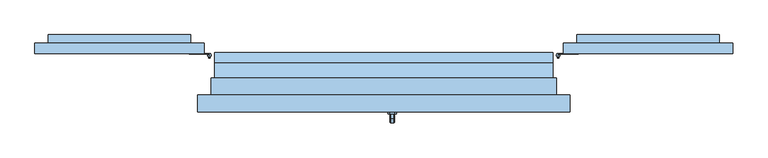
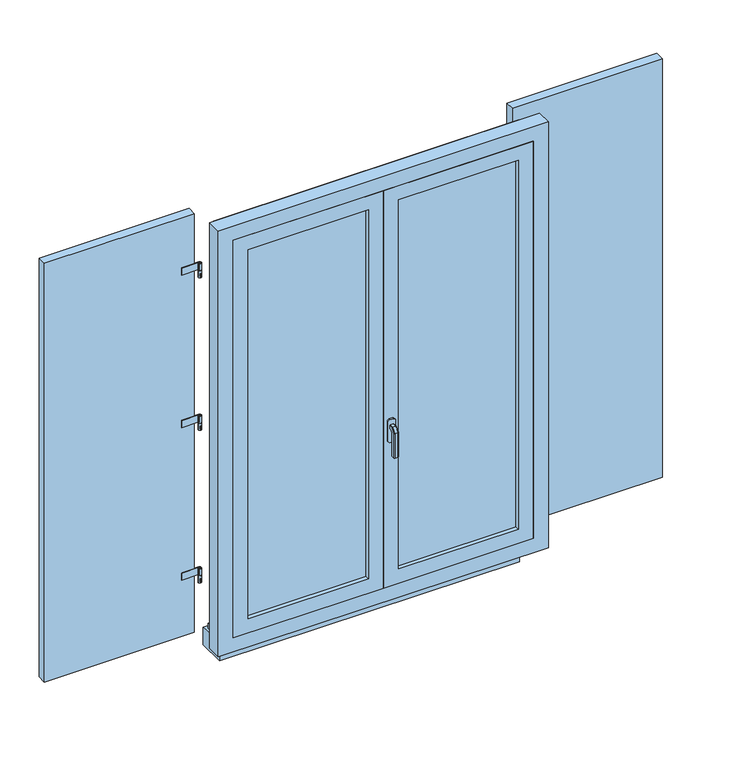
"""IFC4 building model written with IfcOpenShell, lengths in millimetres: window geometry, 2 Vantaux droits - Volets et petits bois : 1m x 1.45m - Appui Béton."""

from ifc_helpers import new_model, si_unit, point, frame, frame_2d, origin, place, context, project, spatial, polyline, circle_curve, trimmed, segment, composite_curve, outline, extrude, faceted_brep, source, transform, mapped, element, save
from ifc_brep_helpers import plane_surface, cylinder_surface, advanced_brep


def window_4f2076fb(model_context):
    return source(origin(), model_context, "Body", "SolidModel", [
        extrude(outline(polyline([(-1030.0, 93.0), (-1030.0, 123.0), (-530.0, 123.0), (-530.0, 93.0), (-1030.0, 93.0)])), frame((0.0, 0.0, 775.0), z_axis=(0.0, 0.0, 1.0), x_axis=(1.0, 0.0, 0.0)), (0.0, 0.0, 1.0), 1475.0),
        advanced_brep(
        [(-510.0, 88.0, 975.0), (-520.0, 88.0, 975.0), (-510.0, 88.0, 950.0), (-520.0, 88.0, 950.0), (-517.0, 83.4174243, 955.0), (-517.0, 83.4174243, 965.0), (-513.0, 83.4174243, 965.0), (-513.0, 83.4174243, 955.0), (-513.0, 80.0, 965.0), (-517.0, 80.0, 965.0), (-517.0, 80.0, 955.0), (-513.0, 80.0, 955.0)],
        [
            (0, 1, circle_curve(frame((-515.0, 88.0, 975.0), z_axis=(0.0, 0.0, 1.0), x_axis=(-1.0, 0.0, 0.0)), 5.0)),
            (1, 0, circle_curve(frame((-515.0, 88.0, 975.0), z_axis=(0.0, 0.0, 1.0), x_axis=(-1.0, 0.0, 0.0)), 5.0)),
            (2, 3, circle_curve(frame((-515.0, 88.0, 950.0), z_axis=(0.0, 0.0, -1.0), x_axis=(-1.0, 0.0, 0.0)), 5.0)),
            (3, 2, circle_curve(frame((-515.0, 88.0, 950.0), z_axis=(0.0, 0.0, -1.0), x_axis=(-1.0, 0.0, 0.0)), 5.0)),
            (1, 3),
            (2, 0),
            (4, 5),
            (5, 6, circle_curve(frame((-515.0, 88.0, 965.0), z_axis=(0.0, 0.0, 1.0), x_axis=(-1.0, 0.0, 0.0)), 5.0)),
            (6, 7),
            (7, 4, circle_curve(frame((-515.0, 88.0, 955.0), z_axis=(0.0, 0.0, -1.0), x_axis=(-1.0, 0.0, 0.0)), 5.0)),
            (8, 6),
            (5, 9),
            (9, 8),
            (10, 4),
            (7, 11),
            (11, 10),
            (10, 9),
            (8, 11),
        ],
        [
            plane_surface(frame((-520.0, 88.0, 975.0), z_axis=(0.0, 0.0, 1.0), x_axis=(0.0, 1.0, 0.0))),
            plane_surface(frame((-520.0, 88.0, 950.0), z_axis=(0.0, 0.0, -1.0), x_axis=(0.0, -1.0, 0.0))),
            cylinder_surface(frame((-515.0, 88.0, 950.0), z_axis=(0.0, 0.0, 1.0), x_axis=(-1.0, 0.0, 0.0)), 5.0),
            plane_surface(frame((-517.0, 80.0, 965.0), z_axis=(0.0, 0.0, 1.0), x_axis=(0.0, 1.0, 0.0))),
            plane_surface(frame((-517.0, 80.0, 955.0), z_axis=(0.0, 0.0, -1.0), x_axis=(0.0, -1.0, 0.0))),
            plane_surface(frame((-517.0, 80.0, 965.0), z_axis=(-1.0, 0.0, 0.0), x_axis=(0.0, 0.0, -1.0))),
            plane_surface(frame((-513.0, 85.0, 965.0), z_axis=(1.0, 0.0, 0.0), x_axis=(0.0, 0.0, -1.0))),
            plane_surface(frame((-513.0, 80.0, 965.0), z_axis=(0.0, -1.0, 0.0), x_axis=(0.0, 0.0, -1.0))),
        ],
        [
            (0, [[1, 2]]),
            (1, [[3, 4]]),
            (2, [[5, -3, 6, -2], [7, 8, 9, 10]]),
            (2, [[-6, -4, -5, -1]]),
            (3, [[11, -8, 12, 13]]),
            (4, [[14, -10, 15, 16]]),
            (5, [[-12, -7, -14, 17]]),
            (6, [[-15, -9, -11, 18]]),
            (7, [[-17, -16, -18, -13]]),
        ],
    ),
        extrude(outline(composite_curve([segment(trimmed(circle_curve(frame_2d((-515.0, 88.0)), 5.0), [point((-515.0, 93.0))], [point((-520.0, 88.0))], False, "CARTESIAN"), True, "CONTINUOUS"), segment(polyline([(-520.0, 88.0), (-517.5, 88.0)]), True, "CONTINUOUS"), segment(trimmed(circle_curve(frame_2d((-515.0, 88.0)), 2.5), [point((-517.5, 88.0))], [point((-515.0, 90.5))], True, "CARTESIAN"), True, "CONTINUOUS"), segment(polyline([(-515.0, 90.5), (-574.3092325, 90.5), (-574.3092325, 93.0), (-515.0, 93.0)]), True, "CONTINUOUS")], self_intersect=False)), frame((0.0, 0.0, 975.0), z_axis=(0.0, 0.0, 1.0), x_axis=(1.0, 0.0, 0.0)), (0.0, 0.0, 1.0), 25.0),
        extrude(outline(composite_curve([segment(trimmed(circle_curve(frame_2d((-515.0, 88.0)), 2.5), [point((-512.5, 88.0))], [point((-517.5, 88.0))], False, "CARTESIAN"), True, "CONTINUOUS"), segment(trimmed(circle_curve(frame_2d((-515.0, 88.0)), 2.5), [point((-517.5, 88.0))], [point((-512.5, 88.0))], False, "CARTESIAN"), True, "CONTINUOUS")], self_intersect=False)), frame((0.0, 0.0, 975.0), z_axis=(0.0, 0.0, 1.0), x_axis=(1.0, 0.0, 0.0)), (0.0, 0.0, 1.0), 25.0),
        advanced_brep(
        [(-510.0, 88.0, 2050.0), (-520.0, 88.0, 2050.0), (-510.0, 88.0, 2025.0), (-520.0, 88.0, 2025.0), (-513.0, 83.4174243, 2040.0), (-513.0, 83.4174243, 2030.0), (-517.0, 83.4174243, 2030.0), (-517.0, 83.4174243, 2040.0), (-513.0, 80.0, 2040.0), (-517.0, 80.0, 2040.0), (-513.0, 80.0, 2030.0), (-517.0, 80.0, 2030.0)],
        [
            (0, 1, circle_curve(frame((-515.0, 88.0, 2050.0), z_axis=(0.0, 0.0, 1.0), x_axis=(-1.0, 0.0, 0.0)), 5.0)),
            (1, 0, circle_curve(frame((-515.0, 88.0, 2050.0), z_axis=(0.0, 0.0, 1.0), x_axis=(-1.0, 0.0, 0.0)), 5.0)),
            (2, 3, circle_curve(frame((-515.0, 88.0, 2025.0), z_axis=(0.0, 0.0, -1.0), x_axis=(-1.0, 0.0, 0.0)), 5.0)),
            (3, 2, circle_curve(frame((-515.0, 88.0, 2025.0), z_axis=(0.0, 0.0, -1.0), x_axis=(-1.0, 0.0, 0.0)), 5.0)),
            (1, 3),
            (2, 0),
            (4, 5),
            (5, 6, circle_curve(frame((-515.0, 88.0, 2030.0), z_axis=(0.0, 0.0, -1.0), x_axis=(-1.0, 0.0, 0.0)), 5.0)),
            (6, 7),
            (7, 4, circle_curve(frame((-515.0, 88.0, 2040.0), z_axis=(0.0, 0.0, 1.0), x_axis=(-1.0, 0.0, 0.0)), 5.0)),
            (8, 4),
            (7, 9),
            (9, 8),
            (10, 11),
            (11, 6),
            (5, 10),
            (9, 11),
            (10, 8),
        ],
        [
            plane_surface(frame((-520.0, 88.0, 2050.0), z_axis=(0.0, 0.0, 1.0), x_axis=(0.0, 1.0, 0.0))),
            plane_surface(frame((-520.0, 88.0, 2025.0), z_axis=(0.0, 0.0, -1.0), x_axis=(0.0, -1.0, 0.0))),
            cylinder_surface(frame((-515.0, 88.0, 2025.0), z_axis=(0.0, 0.0, 1.0), x_axis=(-1.0, 0.0, 0.0)), 5.0),
            plane_surface(frame((-513.0, 80.0, 2040.0), z_axis=(0.0, 0.0, 1.0), x_axis=(-1.0, 0.0, 0.0))),
            plane_surface(frame((-513.0, 80.0, 2030.0), z_axis=(0.0, 0.0, -1.0), x_axis=(1.0, 0.0, 0.0))),
            plane_surface(frame((-513.0, 80.0, 2040.0), z_axis=(0.0, -1.0, 0.0), x_axis=(0.0, 0.0, -1.0))),
            plane_surface(frame((-517.0, 80.0, 2040.0), z_axis=(-1.0, 0.0, 0.0), x_axis=(0.0, 0.0, -1.0))),
            plane_surface(frame((-513.0, 83.4174243, 2040.0), z_axis=(1.0, 0.0, 0.0), x_axis=(0.0, 0.0, -1.0))),
        ],
        [
            (0, [[1, 2]]),
            (1, [[3, 4]]),
            (2, [[5, -3, 6, -2], [7, 8, 9, 10]]),
            (2, [[-6, -4, -5, -1]]),
            (3, [[11, -10, 12, 13]]),
            (4, [[14, 15, -8, 16]]),
            (5, [[17, -14, 18, -13]]),
            (6, [[-9, -15, -17, -12]]),
            (7, [[-18, -16, -7, -11]]),
        ],
    ),
        extrude(outline(polyline([(-513.0, 80.0), (-517.0, 80.0), (-517.0, 83.4174243), (-513.0, 83.4174243), (-513.0, 80.0)])), frame((0.0, 0.0, 1492.5), z_axis=(0.0, 0.0, 1.0), x_axis=(1.0, 0.0, 0.0)), (0.0, 0.0, 1.0), 10.0),
        extrude(outline(composite_curve([segment(trimmed(circle_curve(frame_2d((-515.0, 88.0)), 5.0), [point((-515.0, 93.0))], [point((-520.0, 88.0))], False, "CARTESIAN"), True, "CONTINUOUS"), segment(polyline([(-520.0, 88.0), (-517.5, 88.0)]), True, "CONTINUOUS"), segment(trimmed(circle_curve(frame_2d((-515.0, 88.0)), 2.5), [point((-517.5, 88.0))], [point((-512.5, 88.0))], True, "CARTESIAN"), True, "CONTINUOUS"), segment(trimmed(circle_curve(frame_2d((-515.0, 88.0)), 2.5), [point((-512.5, 88.0))], [point((-515.0, 90.5))], True, "CARTESIAN"), True, "CONTINUOUS"), segment(polyline([(-515.0, 90.5), (-574.3092325, 90.5), (-574.3092325, 93.0), (-515.0, 93.0)]), True, "CONTINUOUS")], self_intersect=False)), frame((0.0, 0.0, 1512.5), z_axis=(0.0, 0.0, 1.0), x_axis=(1.0, 0.0, 0.0)), (0.0, 0.0, 1.0), 25.0),
        extrude(outline(composite_curve([segment(trimmed(circle_curve(frame_2d((-515.0, 88.0)), 2.5), [point((-512.5, 88.0))], [point((-517.5, 88.0))], False, "CARTESIAN"), True, "CONTINUOUS"), segment(trimmed(circle_curve(frame_2d((-515.0, 88.0)), 2.5), [point((-517.5, 88.0))], [point((-512.5, 88.0))], False, "CARTESIAN"), True, "CONTINUOUS")], self_intersect=False)), frame((0.0, 0.0, 1512.5), z_axis=(0.0, 0.0, 1.0), x_axis=(1.0, 0.0, 0.0)), (0.0, 0.0, 1.0), 25.0),
        extrude(outline(composite_curve([segment(trimmed(circle_curve(frame_2d((-515.0, 88.0)), 5.0), [point((-510.0, 88.0))], [point((-520.0, 88.0))], False, "CARTESIAN"), True, "CONTINUOUS"), segment(trimmed(circle_curve(frame_2d((-515.0, 88.0)), 5.0), [point((-520.0, 88.0))], [point((-510.0, 88.0))], False, "CARTESIAN"), True, "CONTINUOUS")], self_intersect=False)), frame((0.0, 0.0, 1487.5), z_axis=(0.0, 0.0, 1.0), x_axis=(1.0, 0.0, 0.0)), (0.0, 0.0, 1.0), 25.0),
        extrude(outline(composite_curve([segment(trimmed(circle_curve(frame_2d((-515.0, 88.0)), 5.0), [point((-515.0, 93.0))], [point((-520.0, 88.0))], False, "CARTESIAN"), True, "CONTINUOUS"), segment(polyline([(-520.0, 88.0), (-517.5, 88.0)]), True, "CONTINUOUS"), segment(trimmed(circle_curve(frame_2d((-515.0, 88.0)), 2.5), [point((-517.5, 88.0))], [point((-515.0, 90.5))], True, "CARTESIAN"), True, "CONTINUOUS"), segment(polyline([(-515.0, 90.5), (-574.3092325, 90.5), (-574.3092325, 93.0), (-515.0, 93.0)]), True, "CONTINUOUS")], self_intersect=False)), frame((0.0, 0.0, 2050.0), z_axis=(0.0, 0.0, 1.0), x_axis=(1.0, 0.0, 0.0)), (0.0, 0.0, 1.0), 25.0),
        extrude(outline(composite_curve([segment(trimmed(circle_curve(frame_2d((-515.0, 88.0)), 2.5), [point((-512.5, 88.0))], [point((-517.5, 88.0))], False, "CARTESIAN"), True, "CONTINUOUS"), segment(trimmed(circle_curve(frame_2d((-515.0, 88.0)), 2.5), [point((-517.5, 88.0))], [point((-512.5, 88.0))], False, "CARTESIAN"), True, "CONTINUOUS")], self_intersect=False)), frame((0.0, 0.0, 2050.0), z_axis=(0.0, 0.0, 1.0), x_axis=(1.0, 0.0, 0.0)), (0.0, 0.0, 1.0), 25.0),
        extrude(outline(polyline([(2010.0, -990.0), (1015.0, -654.4279507), (1015.0, -570.0007252), (2010.0, -905.5727745), (2010.0, -990.0)])), frame((0.0, 123.0, 0.0), z_axis=(0.0, 1.0, 0.0), x_axis=(0.0, 0.0, 1.0)), (0.0, 0.0, 1.0), 25.0),
        extrude(outline(polyline([(-570.0, 148.0), (-570.0, 123.0), (-990.0, 123.0), (-990.0, 148.0), (-570.0, 148.0)])), frame((0.0, 0.0, 2010.0), z_axis=(0.0, 0.0, 1.0), x_axis=(1.0, 0.0, 0.0)), (0.0, 0.0, 1.0), 80.0),
        extrude(outline(polyline([(-570.0, 148.0), (-570.0, 123.0), (-990.0, 123.0), (-990.0, 148.0), (-570.0, 148.0)])), frame((0.0, 0.0, 935.0), z_axis=(0.0, 0.0, 1.0), x_axis=(1.0, 0.0, 0.0)), (0.0, 0.0, 1.0), 80.0),
        extrude(outline(polyline([(1030.0, 93.0), (530.0, 93.0), (530.0, 123.0), (1030.0, 123.0), (1030.0, 93.0)])), frame((0.0, 0.0, 775.0), z_axis=(0.0, 0.0, 1.0), x_axis=(1.0, 0.0, 0.0)), (0.0, 0.0, 1.0), 1475.0),
        advanced_brep(
        [(510.0, 88.0, 975.0), (520.0, 88.0, 975.0), (510.0, 88.0, 950.0), (520.0, 88.0, 950.0), (517.0, 83.4174243, 955.0), (513.0, 83.4174243, 955.0), (513.0, 83.4174243, 965.0), (517.0, 83.4174243, 965.0), (513.0, 80.0, 965.0), (517.0, 80.0, 965.0), (517.0, 80.0, 955.0), (513.0, 80.0, 955.0)],
        [
            (0, 1, circle_curve(frame((515.0, 88.0, 975.0), z_axis=(0.0, 0.0, 1.0), x_axis=(1.0, 0.0, 0.0)), 5.0)),
            (1, 0, circle_curve(frame((515.0, 88.0, 975.0), z_axis=(0.0, 0.0, 1.0), x_axis=(1.0, 0.0, 0.0)), 5.0)),
            (2, 3, circle_curve(frame((515.0, 88.0, 950.0), z_axis=(0.0, 0.0, -1.0), x_axis=(1.0, 0.0, 0.0)), 5.0)),
            (3, 2, circle_curve(frame((515.0, 88.0, 950.0), z_axis=(0.0, 0.0, -1.0), x_axis=(1.0, 0.0, 0.0)), 5.0)),
            (0, 2),
            (3, 1),
            (4, 5, circle_curve(frame((515.0, 88.0, 955.0), z_axis=(0.0, 0.0, -1.0), x_axis=(1.0, 0.0, 0.0)), 5.0)),
            (5, 6),
            (6, 7, circle_curve(frame((515.0, 88.0, 965.0), z_axis=(0.0, 0.0, 1.0), x_axis=(1.0, 0.0, 0.0)), 5.0)),
            (7, 4),
            (8, 9),
            (9, 7),
            (6, 8),
            (10, 11),
            (11, 5),
            (4, 10),
            (9, 10),
            (11, 8),
        ],
        [
            plane_surface(frame((520.0, 88.0, 975.0), z_axis=(0.0, 0.0, 1.0), x_axis=(0.0, 1.0, 0.0))),
            plane_surface(frame((520.0, 88.0, 950.0), z_axis=(0.0, 0.0, -1.0), x_axis=(0.0, -1.0, 0.0))),
            cylinder_surface(frame((515.0, 88.0, 950.0), z_axis=(0.0, 0.0, 1.0), x_axis=(1.0, 0.0, 0.0)), 5.0),
            plane_surface(frame((517.0, 80.0, 965.0), z_axis=(0.0, 0.0, 1.0), x_axis=(0.0, 1.0, 0.0))),
            plane_surface(frame((517.0, 80.0, 955.0), z_axis=(0.0, 0.0, -1.0), x_axis=(0.0, -1.0, 0.0))),
            plane_surface(frame((517.0, 80.0, 965.0), z_axis=(1.0, 0.0, 0.0), x_axis=(0.0, 0.0, -1.0))),
            plane_surface(frame((513.0, 85.0, 965.0), z_axis=(-1.0, 0.0, 0.0), x_axis=(0.0, 0.0, -1.0))),
            plane_surface(frame((513.0, 80.0, 965.0), z_axis=(0.0, -1.0, 0.0), x_axis=(0.0, 0.0, -1.0))),
        ],
        [
            (0, [[1, 2]]),
            (1, [[3, 4]]),
            (2, [[-1, 5, -4, 6], [7, 8, 9, 10]]),
            (2, [[-2, -6, -3, -5]]),
            (3, [[11, 12, -9, 13]]),
            (4, [[14, 15, -7, 16]]),
            (5, [[17, -16, -10, -12]]),
            (6, [[18, -13, -8, -15]]),
            (7, [[-11, -18, -14, -17]]),
        ],
    ),
        extrude(outline(composite_curve([segment(polyline([(515.0, 93.0), (574.3092325, 93.0), (574.3092325, 90.5), (515.0, 90.5)]), True, "CONTINUOUS"), segment(trimmed(circle_curve(frame_2d((515.0, 88.0)), 2.5), [point((515.0, 90.5))], [point((517.5, 88.0))], True, "CARTESIAN"), True, "CONTINUOUS"), segment(polyline([(517.5, 88.0), (520.0, 88.0)]), True, "CONTINUOUS"), segment(trimmed(circle_curve(frame_2d((515.0, 88.0)), 5.0), [point((520.0, 88.0))], [point((515.0, 93.0))], False, "CARTESIAN"), True, "CONTINUOUS")], self_intersect=False)), frame((0.0, 0.0, 975.0), z_axis=(0.0, 0.0, 1.0), x_axis=(1.0, 0.0, 0.0)), (0.0, 0.0, 1.0), 25.0),
        extrude(outline(composite_curve([segment(trimmed(circle_curve(frame_2d((515.0, 88.0)), 2.5), [point((512.5, 88.0))], [point((517.5, 88.0))], False, "CARTESIAN"), True, "CONTINUOUS"), segment(trimmed(circle_curve(frame_2d((515.0, 88.0)), 2.5), [point((517.5, 88.0))], [point((512.5, 88.0))], False, "CARTESIAN"), True, "CONTINUOUS")], self_intersect=False)), frame((0.0, 0.0, 975.0), z_axis=(0.0, 0.0, 1.0), x_axis=(1.0, 0.0, 0.0)), (0.0, 0.0, 1.0), 25.0),
        advanced_brep(
        [(510.0, 88.0, 2050.0), (520.0, 88.0, 2050.0), (510.0, 88.0, 2025.0), (520.0, 88.0, 2025.0), (513.0, 83.4174243, 2040.0), (517.0, 83.4174243, 2040.0), (517.0, 83.4174243, 2030.0), (513.0, 83.4174243, 2030.0), (513.0, 80.0, 2040.0), (517.0, 80.0, 2040.0), (513.0, 80.0, 2030.0), (517.0, 80.0, 2030.0)],
        [
            (0, 1, circle_curve(frame((515.0, 88.0, 2050.0), z_axis=(0.0, 0.0, 1.0), x_axis=(1.0, 0.0, 0.0)), 5.0)),
            (1, 0, circle_curve(frame((515.0, 88.0, 2050.0), z_axis=(0.0, 0.0, 1.0), x_axis=(1.0, 0.0, 0.0)), 5.0)),
            (2, 3, circle_curve(frame((515.0, 88.0, 2025.0), z_axis=(0.0, 0.0, -1.0), x_axis=(1.0, 0.0, 0.0)), 5.0)),
            (3, 2, circle_curve(frame((515.0, 88.0, 2025.0), z_axis=(0.0, 0.0, -1.0), x_axis=(1.0, 0.0, 0.0)), 5.0)),
            (0, 2),
            (3, 1),
            (4, 5, circle_curve(frame((515.0, 88.0, 2040.0), z_axis=(0.0, 0.0, 1.0), x_axis=(1.0, 0.0, 0.0)), 5.0)),
            (5, 6),
            (6, 7, circle_curve(frame((515.0, 88.0, 2030.0), z_axis=(0.0, 0.0, -1.0), x_axis=(1.0, 0.0, 0.0)), 5.0)),
            (7, 4),
            (8, 9),
            (9, 5),
            (4, 8),
            (10, 7),
            (6, 11),
            (11, 10),
            (8, 10),
            (11, 9),
        ],
        [
            plane_surface(frame((520.0, 88.0, 2050.0), z_axis=(0.0, 0.0, 1.0), x_axis=(0.0, 1.0, 0.0))),
            plane_surface(frame((520.0, 88.0, 2025.0), z_axis=(0.0, 0.0, -1.0), x_axis=(0.0, -1.0, 0.0))),
            cylinder_surface(frame((515.0, 88.0, 2025.0), z_axis=(0.0, 0.0, 1.0), x_axis=(1.0, 0.0, 0.0)), 5.0),
            plane_surface(frame((513.0, 80.0, 2040.0), z_axis=(0.0, 0.0, 1.0), x_axis=(1.0, 0.0, 0.0))),
            plane_surface(frame((513.0, 80.0, 2030.0), z_axis=(0.0, 0.0, -1.0), x_axis=(-1.0, 0.0, 0.0))),
            plane_surface(frame((513.0, 80.0, 2040.0), z_axis=(0.0, -1.0, 0.0), x_axis=(0.0, 0.0, -1.0))),
            plane_surface(frame((517.0, 80.0, 2040.0), z_axis=(1.0, 0.0, 0.0), x_axis=(0.0, 0.0, -1.0))),
            plane_surface(frame((513.0, 83.4174243, 2040.0), z_axis=(-1.0, 0.0, 0.0), x_axis=(0.0, 0.0, -1.0))),
        ],
        [
            (0, [[1, 2]]),
            (1, [[3, 4]]),
            (2, [[-1, 5, -4, 6], [7, 8, 9, 10]]),
            (2, [[-2, -6, -3, -5]]),
            (3, [[11, 12, -7, 13]]),
            (4, [[14, -9, 15, 16]]),
            (5, [[-11, 17, -16, 18]]),
            (6, [[-12, -18, -15, -8]]),
            (7, [[-13, -10, -14, -17]]),
        ],
    ),
        extrude(outline(polyline([(513.0, 80.0), (513.0, 83.4174243), (517.0, 83.4174243), (517.0, 80.0), (513.0, 80.0)])), frame((0.0, 0.0, 1492.5), z_axis=(0.0, 0.0, 1.0), x_axis=(1.0, 0.0, 0.0)), (0.0, 0.0, 1.0), 10.0),
        extrude(outline(composite_curve([segment(polyline([(515.0, 93.0), (574.3092325, 93.0), (574.3092325, 90.5), (515.0, 90.5)]), True, "CONTINUOUS"), segment(trimmed(circle_curve(frame_2d((515.0, 88.0)), 2.5), [point((515.0, 90.5))], [point((512.5, 88.0))], True, "CARTESIAN"), True, "CONTINUOUS"), segment(trimmed(circle_curve(frame_2d((515.0, 88.0)), 2.5), [point((512.5, 88.0))], [point((517.5, 88.0))], True, "CARTESIAN"), True, "CONTINUOUS"), segment(polyline([(517.5, 88.0), (520.0, 88.0)]), True, "CONTINUOUS"), segment(trimmed(circle_curve(frame_2d((515.0, 88.0)), 5.0), [point((520.0, 88.0))], [point((515.0, 93.0))], False, "CARTESIAN"), True, "CONTINUOUS")], self_intersect=False)), frame((0.0, 0.0, 1512.5), z_axis=(0.0, 0.0, 1.0), x_axis=(1.0, 0.0, 0.0)), (0.0, 0.0, 1.0), 25.0),
        extrude(outline(composite_curve([segment(trimmed(circle_curve(frame_2d((515.0, 88.0)), 2.5), [point((512.5, 88.0))], [point((517.5, 88.0))], False, "CARTESIAN"), True, "CONTINUOUS"), segment(trimmed(circle_curve(frame_2d((515.0, 88.0)), 2.5), [point((517.5, 88.0))], [point((512.5, 88.0))], False, "CARTESIAN"), True, "CONTINUOUS")], self_intersect=False)), frame((0.0, 0.0, 1512.5), z_axis=(0.0, 0.0, 1.0), x_axis=(1.0, 0.0, 0.0)), (0.0, 0.0, 1.0), 25.0),
        extrude(outline(composite_curve([segment(trimmed(circle_curve(frame_2d((515.0, 88.0)), 5.0), [point((510.0, 88.0))], [point((520.0, 88.0))], False, "CARTESIAN"), True, "CONTINUOUS"), segment(trimmed(circle_curve(frame_2d((515.0, 88.0)), 5.0), [point((520.0, 88.0))], [point((510.0, 88.0))], False, "CARTESIAN"), True, "CONTINUOUS")], self_intersect=False)), frame((0.0, 0.0, 1487.5), z_axis=(0.0, 0.0, 1.0), x_axis=(1.0, 0.0, 0.0)), (0.0, 0.0, 1.0), 25.0),
        extrude(outline(composite_curve([segment(polyline([(515.0, 93.0), (574.3092325, 93.0), (574.3092325, 90.5), (515.0, 90.5)]), True, "CONTINUOUS"), segment(trimmed(circle_curve(frame_2d((515.0, 88.0)), 2.5), [point((515.0, 90.5))], [point((517.5, 88.0))], True, "CARTESIAN"), True, "CONTINUOUS"), segment(polyline([(517.5, 88.0), (520.0, 88.0)]), True, "CONTINUOUS"), segment(trimmed(circle_curve(frame_2d((515.0, 88.0)), 5.0), [point((520.0, 88.0))], [point((515.0, 93.0))], False, "CARTESIAN"), True, "CONTINUOUS")], self_intersect=False)), frame((0.0, 0.0, 2050.0), z_axis=(0.0, 0.0, 1.0), x_axis=(1.0, 0.0, 0.0)), (0.0, 0.0, 1.0), 25.0),
        extrude(outline(composite_curve([segment(trimmed(circle_curve(frame_2d((515.0, 88.0)), 2.5), [point((512.5, 88.0))], [point((517.5, 88.0))], False, "CARTESIAN"), True, "CONTINUOUS"), segment(trimmed(circle_curve(frame_2d((515.0, 88.0)), 2.5), [point((517.5, 88.0))], [point((512.5, 88.0))], False, "CARTESIAN"), True, "CONTINUOUS")], self_intersect=False)), frame((0.0, 0.0, 2050.0), z_axis=(0.0, 0.0, 1.0), x_axis=(1.0, 0.0, 0.0)), (0.0, 0.0, 1.0), 25.0),
        extrude(outline(polyline([(2010.0, 990.0), (2010.0, 905.5727745), (1015.0, 570.0007252), (1015.0, 654.4279507), (2010.0, 990.0)])), frame((0.0, 123.0, 0.0), z_axis=(0.0, 1.0, 0.0), x_axis=(0.0, 0.0, 1.0)), (0.0, 0.0, 1.0), 25.0),
        extrude(outline(polyline([(570.0, 148.0), (990.0, 148.0), (990.0, 123.0), (570.0, 123.0), (570.0, 148.0)])), frame((0.0, 0.0, 2010.0), z_axis=(0.0, 0.0, 1.0), x_axis=(1.0, 0.0, 0.0)), (0.0, 0.0, 1.0), 80.0),
        extrude(outline(polyline([(570.0, 148.0), (990.0, 148.0), (990.0, 123.0), (570.0, 123.0), (570.0, 148.0)])), frame((0.0, 0.0, 935.0), z_axis=(0.0, 0.0, 1.0), x_axis=(1.0, 0.0, 0.0)), (0.0, 0.0, 1.0), 80.0),
        faceted_brep([(30.6460097, -86.0, 1422.0339292), (32.0339292, -86.0, 1420.6460097), (32.0339292, -86.0, 1409.3323012), (30.6676988, -86.0, 1407.9660708), (19.3323012, -86.0, 1407.9660708), (17.9660708, -86.0, 1409.3323012), (17.9660708, -86.0, 1420.6460097), (19.3539903, -86.0, 1422.0339292), (30.6460097, -98.9135489, 1422.0339292), (32.0339292, -98.3386538, 1420.6460097), (32.0339292, -111.6460097, 1407.3386538), (32.0339292, -111.6460097, 1320.0), (32.0339292, -100.3323012, 1320.0), (32.0339292, -100.3323012, 1402.6523623), (32.0339292, -93.6523623, 1409.3323012), (30.6676988, -93.0864511, 1407.9660708), (19.3323012, -93.0864511, 1407.9660708), (17.9660708, -93.6523623, 1409.3323012), (17.9660708, -100.3323012, 1402.6523623), (17.9660708, -100.3323012, 1320.0), (17.9660708, -111.6460097, 1320.0), (17.9660708, -111.6460097, 1407.3386538), (17.9660708, -98.3386538, 1420.6460097), (19.3539903, -98.9135489, 1422.0339292), (30.6460097, -113.0339292, 1407.9135489), (30.6676988, -98.9660708, 1402.0864511), (19.3323012, -98.9660708, 1402.0864511), (19.3539903, -113.0339292, 1407.9135489), (30.6460097, -113.0339292, 1320.0), (19.3539903, -113.0339292, 1320.0), (19.3323012, -98.9660708, 1320.0), (30.6676988, -98.9660708, 1320.0)], [[[0, 1, 2, 3, 4, 5, 6, 7]], [[1, 0, 8, 9]], [[2, 1, 9, 10, 11, 12, 13, 14]], [[3, 2, 14, 15]], [[4, 3, 15, 16]], [[5, 4, 16, 17]], [[6, 5, 17, 18, 19, 20, 21, 22]], [[7, 6, 22, 23]], [[0, 7, 23, 8]], [[9, 8, 24, 10]], [[15, 14, 13, 25]], [[16, 15, 25, 26]], [[17, 16, 26, 18]], [[23, 22, 21, 27]], [[8, 23, 27, 24]], [[28, 29, 20, 19, 30, 31, 12, 11]], [[10, 24, 28, 11]], [[25, 13, 12, 31]], [[26, 25, 31, 30]], [[18, 26, 30, 19]], [[27, 21, 20, 29]], [[24, 27, 29, 28]]]),
        extrude(outline(polyline([(1440.0, 32.0), (1440.0, 18.0), (1435.0, 13.0), (1365.0, 13.0), (1360.0, 18.0), (1360.0, 32.0), (1365.0, 37.0), (1435.0, 37.0), (1440.0, 32.0)])), frame((0.0, -86.0, 0.0), z_axis=(0.0, 1.0, 0.0), x_axis=(0.0, 0.0, 1.0)), (0.0, 0.0, 1.0), 6.0),
        extrude(outline(polyline([(0.0, 800.0), (50.0, 800.0), (50.0, 785.0), (95.0, 780.2703094), (95.0, 720.0), (0.0, 720.0), (0.0, 800.0)])), frame((-500.0, 0.0, 0.0), z_axis=(1.0, 0.0, 0.0), x_axis=(0.0, 1.0, 0.0)), (0.0, 0.0, 1.0), 1000.0),
        extrude(outline(polyline([(850.0, 0.0), (2250.0, 0.0), (2250.0, -500.0), (850.0, -500.0), (850.0, 0.0)]), holes=[polyline([(900.0, -450.0), (2200.0, -450.0), (2200.0, -50.0), (900.0, -50.0), (900.0, -450.0)])]), frame((0.0, -80.0, 0.0), z_axis=(0.0, 1.0, 0.0), x_axis=(0.0, 0.0, 1.0)), (0.0, 0.0, 1.0), 40.0),
        extrude(outline(polyline([(50.0, -54.0), (450.0, -54.0), (450.0, -66.0), (50.0, -66.0), (50.0, -54.0)])), frame((0.0, 0.0, 900.0), z_axis=(0.0, 0.0, 1.0), x_axis=(1.0, 0.0, 0.0)), (0.0, 0.0, 1.0), 1300.0),
        extrude(outline(polyline([(-450.0, -54.0), (-50.0, -54.0), (-50.0, -66.0), (-450.0, -66.0), (-450.0, -54.0)])), frame((0.0, 0.0, 900.0), z_axis=(0.0, 0.0, 1.0), x_axis=(1.0, 0.0, 0.0)), (0.0, 0.0, 1.0), 1300.0),
        extrude(outline(polyline([(850.0, 500.0), (2250.0, 500.0), (2250.0, 0.0), (850.0, 0.0), (850.0, 500.0)]), holes=[polyline([(900.0, 50.0), (2200.0, 50.0), (2200.0, 450.0), (900.0, 450.0), (900.0, 50.0)])]), frame((0.0, -80.0, 0.0), z_axis=(0.0, 1.0, 0.0), x_axis=(0.0, 0.0, 1.0)), (0.0, 0.0, 1.0), 40.0),
        faceted_brep([(-550.0, -80.0, 800.0), (-550.0, -30.0, 800.0), (-500.0, -30.0, 800.0), (-500.0, 55.0, 800.0), (500.0, 55.0, 800.0), (500.0, -30.0, 800.0), (550.0, -30.0, 800.0), (550.0, -80.0, 800.0), (-550.0, -80.0, 2300.0), (-550.0, -30.0, 2300.0), (550.0, -30.0, 2300.0), (500.0, -30.0, 839.3761425), (-500.0, -30.0, 839.3761425), (-485.0, -30.0, 2235.0), (-485.0, -30.0, 865.0), (485.0, -30.0, 865.0), (485.0, -30.0, 2235.0), (-500.0, 65.0, 813.9209692), (-500.0, 65.0, 795.0), (-500.0, 55.0, 795.0), (500.0, 55.0, 795.0), (500.0, 65.0, 795.0), (500.0, 65.0, 813.9209692), (550.0, -80.0, 2300.0), (500.0, -80.0, 2250.0), (500.0, -80.0, 850.0), (-500.0, -80.0, 850.0), (-500.0, -80.0, 2250.0), (-485.0, -40.0, 2235.0), (-485.0, -40.0, 865.0), (485.0, -40.0, 865.0), (485.0, -40.0, 2235.0), (500.0, -40.0, 2250.0), (-500.0, -40.0, 2250.0), (-500.0, -40.0, 850.0), (500.0, -40.0, 850.0)], [[[0, 1, 2, 3, 4, 5, 6, 7]], [[1, 0, 8, 9]], [[1, 9, 10, 6, 5, 11, 12, 2], [13, 14, 15, 16]], [[12, 17, 18, 19, 3, 2]], [[3, 19, 20, 4]], [[4, 20, 21, 22, 11, 5]], [[6, 10, 23, 7]], [[0, 7, 23, 8], [24, 25, 26, 27]], [[13, 28, 29, 14]], [[29, 30, 15, 14]], [[31, 16, 15, 30]], [[17, 12, 11, 22]], [[32, 33, 34, 35], [28, 31, 30, 29]], [[34, 33, 27, 26]], [[26, 25, 35, 34]], [[24, 32, 35, 25]], [[18, 17, 22, 21]], [[19, 18, 21, 20]], [[13, 16, 31, 28]], [[33, 32, 24, 27]], [[10, 9, 8, 23]]]),
        extrude(outline(polyline([(800.0, -510.0), (800.0, -500.0), (2250.0, -500.0), (2250.0, 500.0), (800.0, 500.0), (800.0, 510.0), (2260.0, 510.0), (2260.0, -510.0), (800.0, -510.0)])), frame((0.0, -30.0, 0.0), z_axis=(0.0, 1.0, 0.0), x_axis=(0.0, 0.0, 1.0)), (0.0, 0.0, 1.0), 50.0),
        extrude(outline(polyline([(20.0, -32.0), (20.0, -40.0), (-20.0, -40.0), (-20.0, -32.0), (20.0, -32.0)])), frame((0.0, 0.0, 865.0), z_axis=(0.0, 0.0, 1.0), x_axis=(1.0, 0.0, 0.0)), (0.0, 0.0, 1.0), 1370.0),
    ])


if __name__ == "__main__":
    model = new_model("IFC4")
    model_context = context("Model", 3, world=origin())
    ifc_project = project(units=[si_unit("LENGTHUNIT", "METRE", prefix="MILLI")], contexts=[model_context])
    site = spatial("IfcSite", under=ifc_project)
    building = spatial("IfcBuilding", under=site)
    placement = place(None, origin())
    window_shape = window_4f2076fb(model_context)
    element("IfcWindow", 1, ObjectType="2 Vantaux droits - Volets et petits bois : 1m x 1.45m - Appui Béton", at=placement, inside=building, context=model_context, shape_type="MappedRepresentation", body=[
        mapped(window_shape, transform((0.0, 0.0, 0.0), x_axis=(1.0, 0.0, 0.0), y_axis=(0.0, 1.0, 0.0), z_axis=(0.0, 0.0, 1.0))),
    ])
    save(model, "model.ifc")
